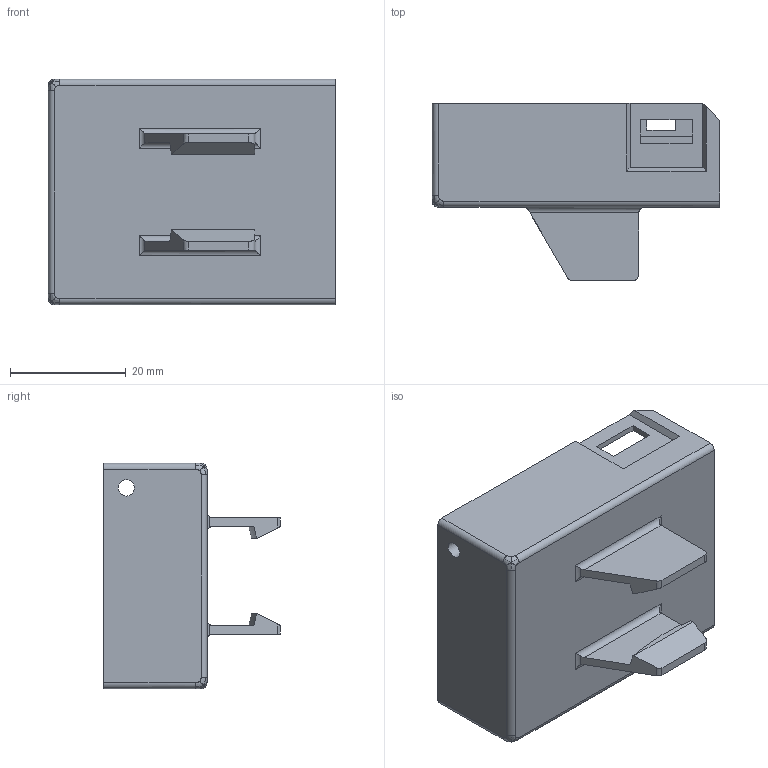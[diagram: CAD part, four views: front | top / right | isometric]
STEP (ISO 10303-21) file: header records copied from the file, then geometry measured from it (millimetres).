
FILE_DESCRIPTION(/* description */ (''),/* implementation_level */ '2;1');
FILE_NAME(/* name */ 'C:/Users/Mads/Desktop/bose_casing_QC15.stp',/* time_stamp */ '2016-12-15T17:37:22+01:00',/* author */ (''),/* organization */ (''),/* preprocessor_version */ 'ST-DEVELOPER v16.5',/* originating_system */ 'Autodesk Translation Framework v5.2.0.2920',/* authorisation */ '');
FILE_SCHEMA (('AUTOMOTIVE_DESIGN { 1 0 10303 214 3 1 1 }'));
Length unit declared in the file: millimetre
Products named in the file (1): Boks QC15
Bounding box: 49.7 x 30.6 x 39 mm (x, y, z)
Volume: 13726.5 mm3; surface area: 12446.4 mm2
Topology: 1 solids, 1 shells, 99 faces, 272 edges, 178 vertices
Faces by surface type: plane 60, cylinder 23, bspline 14, torus 2
Full cylindrical faces by diameter (mm): 2.8 x1
Entity records: 3707 total; most frequent: CARTESIAN_POINT 1172, ORIENTED_EDGE 542, DIRECTION 491, EDGE_CURVE 271, LINE 189, VECTOR 189, VERTEX_POINT 178, AXIS2_PLACEMENT_3D 151
